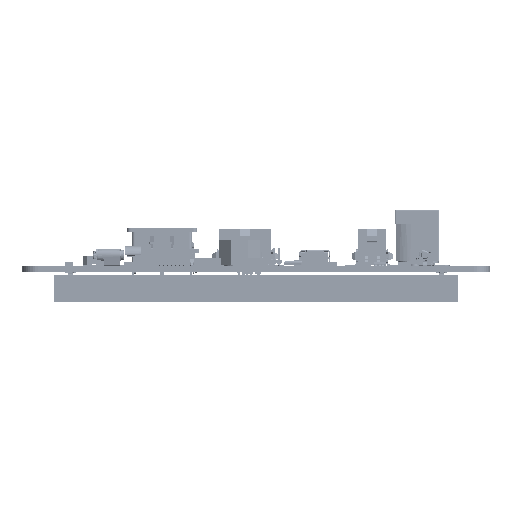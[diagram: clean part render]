
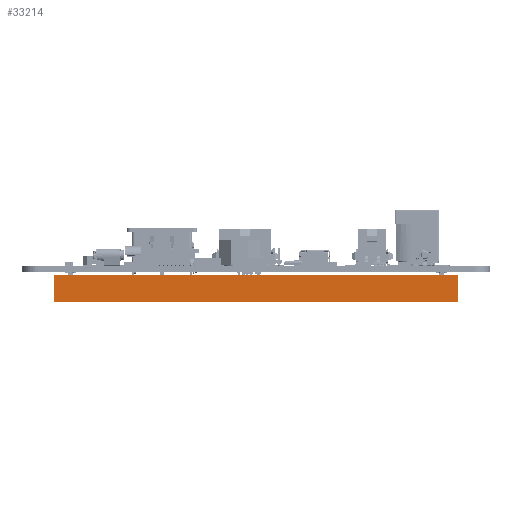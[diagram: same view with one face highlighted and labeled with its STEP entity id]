
A CAD part, left-side view. The second image highlights one B-rep face of the part: STEP entity #33214.
In plain terms, the highlighted planar face has unit normal (-1, 0, 0) as drawn and (1, 0, 0) by its records, which use the part's own axes.
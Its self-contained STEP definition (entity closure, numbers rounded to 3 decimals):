
#33214 = ADVANCED_FACE ( 'NONE', ( #69753 ), #279227, .F. ) ;
#55958 = DIRECTION ( 'NONE',  ( 0., 0., -1. ) ) ;
#69753 = FACE_OUTER_BOUND ( 'NONE', #535737, .T. ) ;
#72595 = LINE ( 'NONE', #552365, #97111 ) ;
#97111 = VECTOR ( 'NONE', #597164, 1000. ) ;
#101284 = CARTESIAN_POINT ( 'NONE',  ( 82.45, -50., 0. ) ) ;
#108373 = VECTOR ( 'NONE', #429907, 1000. ) ;
#112659 = VERTEX_POINT ( 'NONE', #101284 ) ;
#126185 = DIRECTION ( 'NONE',  ( 0., 1., 0. ) ) ;
#128810 = DIRECTION ( 'NONE',  ( 0., -1., 0. ) ) ;
#143110 = CARTESIAN_POINT ( 'NONE',  ( 82.45, -50., 6.9 ) ) ;
#180040 = VECTOR ( 'NONE', #126185, 1000. ) ;
#193142 = ORIENTED_EDGE ( 'NONE', *, *, #585967, .T. ) ;
#244807 = LINE ( 'NONE', #528610, #108373 ) ;
#249095 = ORIENTED_EDGE ( 'NONE', *, *, #307611, .T. ) ;
#277412 = AXIS2_PLACEMENT_3D ( 'NONE', #335351, #582385, #128810 ) ;
#279227 = PLANE ( 'NONE',  #277412 ) ;
#307611 = EDGE_CURVE ( 'NONE', #112659, #566082, #72595, .T. ) ;
#316514 = LINE ( 'NONE', #384405, #180040 ) ;
#335351 = CARTESIAN_POINT ( 'NONE',  ( 82.45, 50., 6.9 ) ) ;
#344410 = ORIENTED_EDGE ( 'NONE', *, *, #529121, .F. ) ;
#362270 = EDGE_CURVE ( 'NONE', #628716, #566082, #414664, .T. ) ;
#384405 = CARTESIAN_POINT ( 'NONE',  ( 82.45, 50., 6.9 ) ) ;
#385930 = CARTESIAN_POINT ( 'NONE',  ( 82.45, 50., 0. ) ) ;
#400922 = VERTEX_POINT ( 'NONE', #143110 ) ;
#406971 = VECTOR ( 'NONE', #55958, 1000. ) ;
#414664 = LINE ( 'NONE', #520530, #406971 ) ;
#429907 = DIRECTION ( 'NONE',  ( 0., 0., -1. ) ) ;
#437937 = ORIENTED_EDGE ( 'NONE', *, *, #362270, .F. ) ;
#444126 = CARTESIAN_POINT ( 'NONE',  ( 82.45, 50., 6.9 ) ) ;
#520530 = CARTESIAN_POINT ( 'NONE',  ( 82.45, 50., 6.9 ) ) ;
#528610 = CARTESIAN_POINT ( 'NONE',  ( 82.45, -50., 6.9 ) ) ;
#529121 = EDGE_CURVE ( 'NONE', #400922, #628716, #316514, .T. ) ;
#535737 = EDGE_LOOP ( 'NONE', ( #249095, #437937, #344410, #193142 ) ) ;
#552365 = CARTESIAN_POINT ( 'NONE',  ( 82.45, 50., 0. ) ) ;
#566082 = VERTEX_POINT ( 'NONE', #385930 ) ;
#582385 = DIRECTION ( 'NONE',  ( -1., 0., 0. ) ) ;
#585967 = EDGE_CURVE ( 'NONE', #400922, #112659, #244807, .T. ) ;
#597164 = DIRECTION ( 'NONE',  ( 0., 1., 0. ) ) ;
#628716 = VERTEX_POINT ( 'NONE', #444126 ) ;
